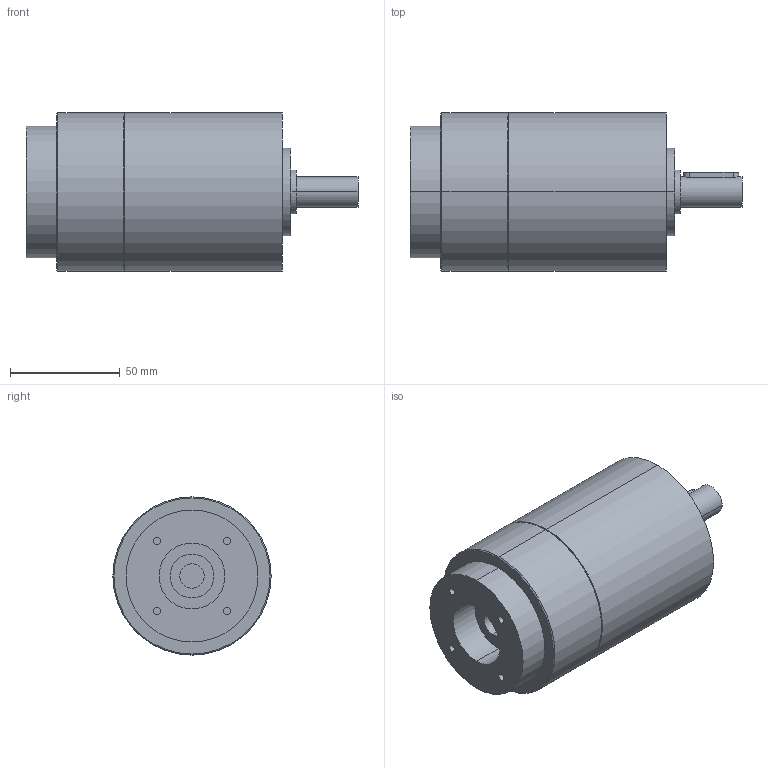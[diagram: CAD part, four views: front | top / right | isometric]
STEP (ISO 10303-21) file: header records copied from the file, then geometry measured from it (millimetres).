
FILE_DESCRIPTION(('CoCreate Modeling STEP Export'),'2;1');
FILE_NAME('GPT75_ig-9-12-16-20-25-28-35-40-50-70-100_14_B14T_11_P16.stp','2014-08-27T13:08:33',(''),(''),'CoCreate Modeling STEP processor for AP214 (Solid Model)','CoCreate Modeling 16.00C 25-Feb-2009 (C) Parametric Technology GmbH','');
FILE_SCHEMA(('AUTOMOTIVE_DESIGN { 1 0 10303 214 1 1 1 1 }'));
Length unit declared in the file: millimetre
Products named in the file (2): GPT75_ig-9-12-16-20-25-28-35-40-50-70-100_14_B14T_11_P16
Assembly tree (1 placements, depth 2):
  GPT75_ig-9-12-16-20-25-28-35-40-50-70-100_14_B14T_11_P16
    GPT75_ig-9-12-16-20-25-28-35-40-50-70-100_14_B14T_11_P16
Bounding box: 151 x 72 x 72 mm (x, y, z)
Volume: 453838.5 mm3; surface area: 40158.3 mm2
Topology: 1 solids, 1 shells, 64 faces, 142 edges, 97 vertices
Faces by surface type: cylinder 38, plane 22, cone 4
Entity records: 1878 total; most frequent: CARTESIAN_POINT 614, ORIENTED_EDGE 284, DIRECTION 210, EDGE_CURVE 142, VERTEX_POINT 97, AXIS2_PLACEMENT_3D 81, EDGE_LOOP 81, FACE_OUTER_BOUND 64
